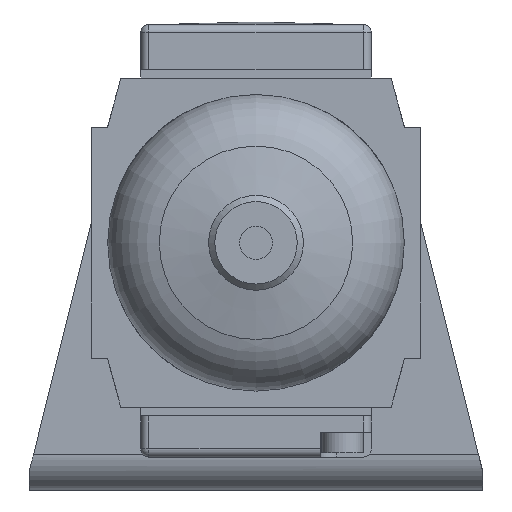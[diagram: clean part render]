
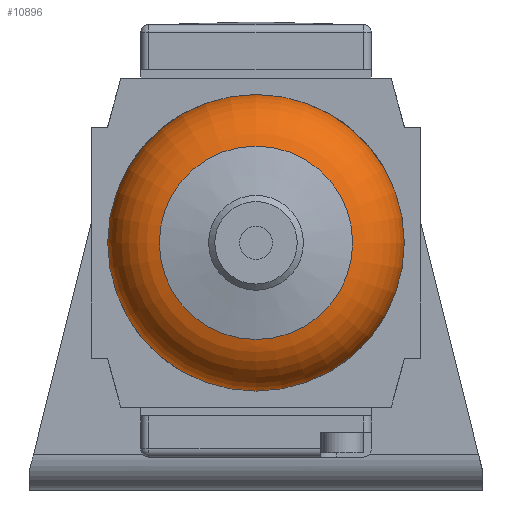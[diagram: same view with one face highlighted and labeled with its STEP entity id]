
A CAD part, front view. The second image highlights one B-rep face of the part: STEP entity #10896.
In plain terms, the highlighted toroidal (fillet/blend) face has major radius 10 mm and minor radius 8 mm.
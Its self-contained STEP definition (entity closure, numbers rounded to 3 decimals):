
#10869=CARTESIAN_POINT('',(0.0,-44.283,0.0));
#10870=DIRECTION('',(0.0,-1.0,0.0));
#10871=DIRECTION('',(0.0,0.0,-1.0));
#10872=AXIS2_PLACEMENT_3D('',#10869,#10870,#10871);
#10873=TOROIDAL_SURFACE('',#10872,10.,8.0);
#10874=CARTESIAN_POINT('',(0.,-44.283,-18.));
#10875=VERTEX_POINT('',#10874);
#10876=CARTESIAN_POINT('',(0.0,-44.283,0.0));
#10877=DIRECTION('',(0.0,1.0,0.0));
#10878=DIRECTION('',(0.0,0.0,-1.0));
#10879=AXIS2_PLACEMENT_3D('',#10876,#10877,#10878);
#10880=CIRCLE('',#10879,18.);
#10881=EDGE_CURVE('',#10875,#10875,#10880,.T.);
#10882=ORIENTED_EDGE('',*,*,#10881,.F.);
#10883=EDGE_LOOP('',(#10882));
#10884=FACE_OUTER_BOUND('',#10883,.T.);
#10885=CARTESIAN_POINT('',(0.,-52.092,-11.735));
#10886=VERTEX_POINT('',#10885);
#10887=CARTESIAN_POINT('',(0.0,-52.092,0.0));
#10888=DIRECTION('',(0.0,-1.0,0.0));
#10889=DIRECTION('',(0.0,0.0,-1.0));
#10890=AXIS2_PLACEMENT_3D('',#10887,#10888,#10889);
#10891=CIRCLE('',#10890,11.735);
#10892=EDGE_CURVE('',#10886,#10886,#10891,.T.);
#10893=ORIENTED_EDGE('',*,*,#10892,.F.);
#10894=EDGE_LOOP('',(#10893));
#10895=FACE_BOUND('',#10894,.T.);
#10896=ADVANCED_FACE('',(#10884,#10895),#10873,.T.);
